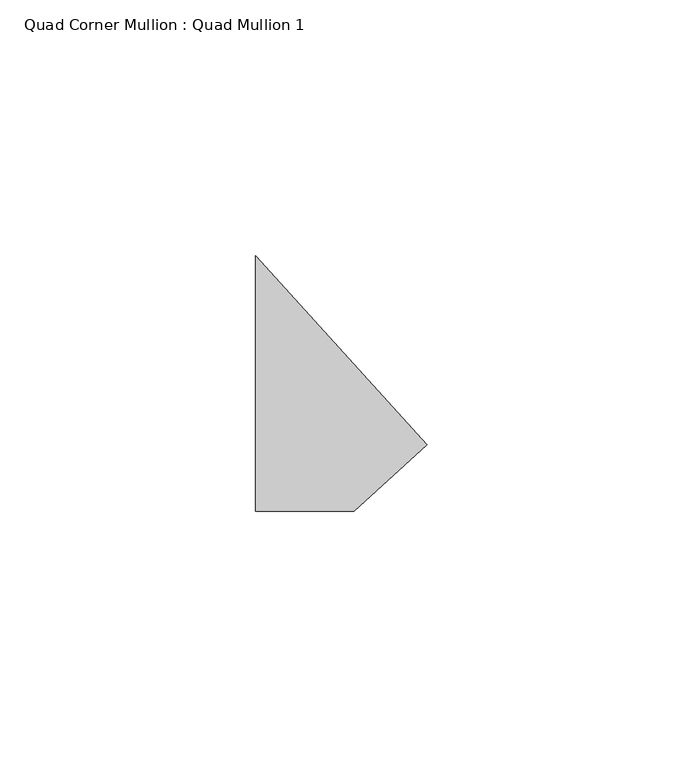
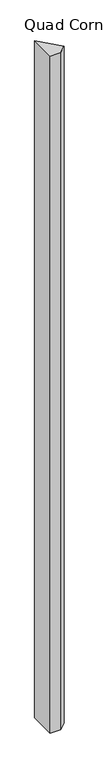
"""IFC4 building model written with IfcOpenShell, lengths in millimetres: member geometry, Quad Corner Mullion : Quad Mullion 1."""

from ifc_helpers import new_model, si_unit, frame, origin, place, context, project, spatial, polyline, outline, extrude, source, transform, mapped, element, save


def quad_corner_mullion_quad_mullion_1_5fd61f3d(model_context):
    return source(origin(), model_context, "Body", "SweptSolid", [
        extrude(outline(polyline([(23.9566159, -12.0146065), (9.6576505, -25.0), (-9.6576505, -25.0), (-9.6576505, 25.0), (23.9566159, -12.0146065)])), frame((0.0, 0.0, -1330.0), z_axis=(0.0, 0.0, 1.0), x_axis=(1.0, 0.0, 0.0)), (0.0, 0.0, 1.0), 1330.0),
    ])


if __name__ == "__main__":
    model = new_model("IFC4")
    model_context = context("Model", 3, world=origin())
    ifc_project = project(units=[si_unit("LENGTHUNIT", "METRE", prefix="MILLI")], contexts=[model_context])
    site = spatial("IfcSite", under=ifc_project)
    building = spatial("IfcBuilding", under=site)
    placement = place(None, origin())
    quad_corner_mullion_quad_mullion_1_shape = quad_corner_mullion_quad_mullion_1_5fd61f3d(model_context)
    element("IfcMember", 1, ObjectType="Quad Corner Mullion : Quad Mullion 1", at=placement, inside=building, context=model_context, shape_type="MappedRepresentation", body=[
        mapped(quad_corner_mullion_quad_mullion_1_shape, transform((0.0, 0.0, 0.0), x_axis=(1.0, 0.0, 0.0), y_axis=(0.0, 1.0, 0.0), z_axis=(0.0, 0.0, 1.0))),
    ])
    save(model, "model.ifc")
